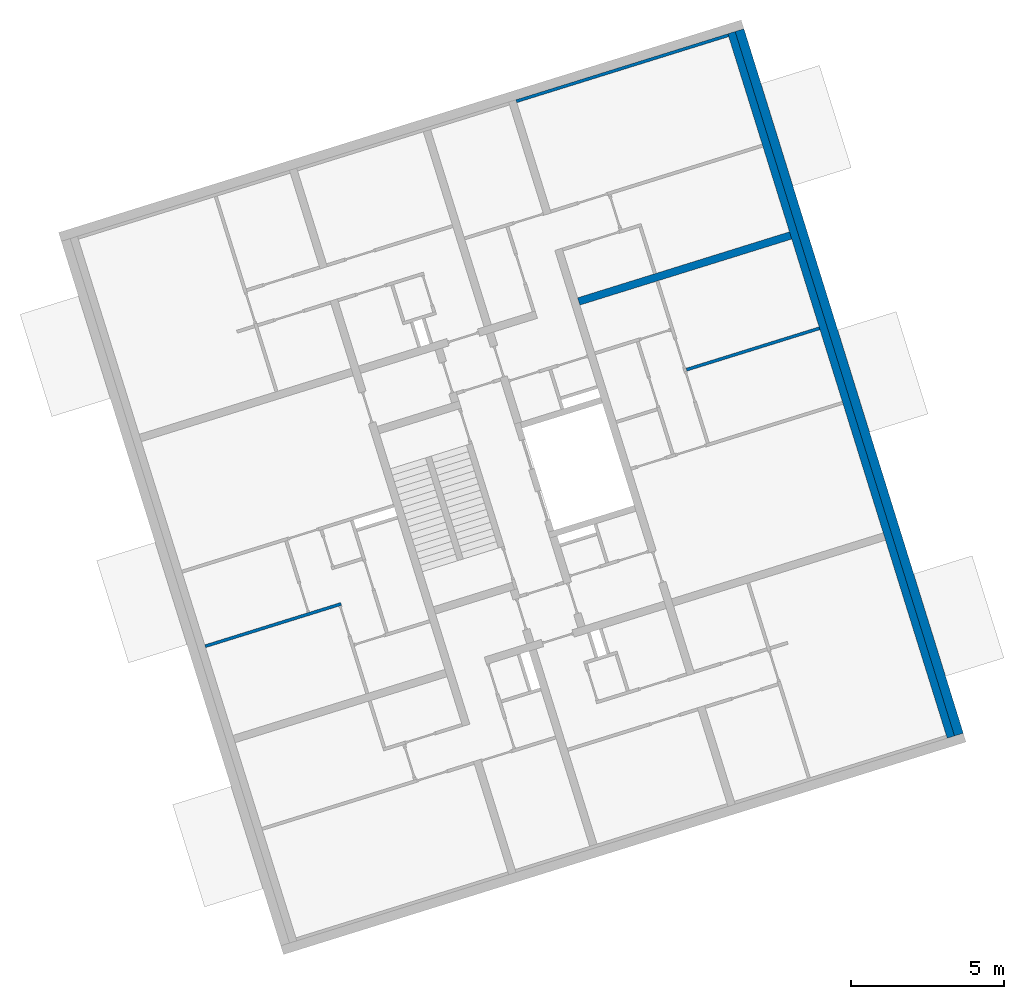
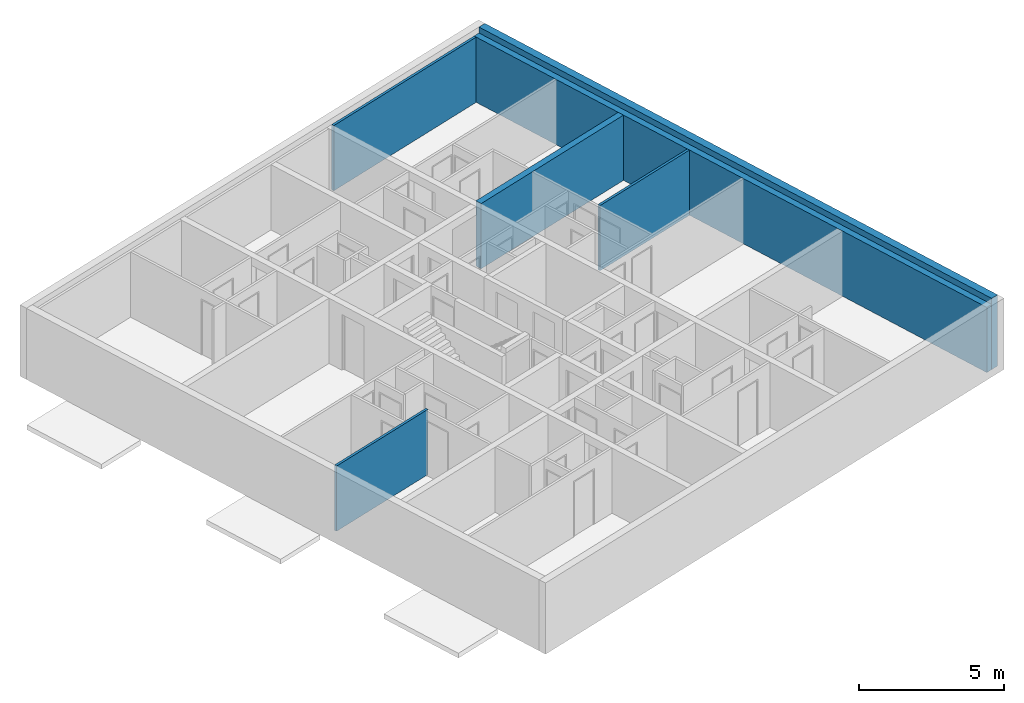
# One storey, part 7 of 9: 6 walls, 3 openings.
"""IFC4 building model written with IfcOpenShell, lengths in metres."""

import ifcopenshell
import ifcopenshell.guid

model = None  # the IFC model being written
_history = None  # IfcOwnerHistory: only IFC2X3 demands one
_inside = {}  # id of a spatial element -> (the spatial element, [elements in it])
_under = {}  # id of a project, library or spatial element -> (it, [spatial elements below it])
_declared = {}  # id of a project -> (the project, [libraries it declares])
_typed = {}  # id of a type object -> (the type object, [elements of that type])
_made_of = {}  # id of a material, layer set ... -> (it, [elements and type objects made of it])


def new_model(schema):
    """Start an empty IFC model of exactly this schema.

    Asked for "IFC4X3", IfcOpenShell would pick the latest addendum, in which some entities
    have other attributes; the version numbers below select the first issue.
    IFC2X3 requires an IfcOwnerHistory on every rooted entity: one is made here for all.
    """
    global model, _history
    if schema == "IFC4X3":
        model = ifcopenshell.file(schema_version=(4, 3, 0, 0))
    else:
        model = ifcopenshell.file(schema=schema)
    _inside.clear()
    _under.clear()
    _declared.clear()
    _typed.clear()
    _made_of.clear()
    _history = None
    if model.schema == "IFC2X3":
        org = make("IfcOrganization", Name="unknown")
        user = make(
            "IfcPersonAndOrganization",
            ThePerson=make("IfcPerson", FamilyName="unknown"),
            TheOrganization=org,
        )
        app = make(
            "IfcApplication",
            ApplicationDeveloper=org,
            Version="unknown",
            ApplicationFullName="unknown",
            ApplicationIdentifier="unknown",
        )
        _history = make(
            "IfcOwnerHistory",
            OwningUser=user,
            OwningApplication=app,
            ChangeAction="ADDED",
            CreationDate=0,
        )
    return model


def make(cls, **values):
    """One entity of the class cls with the attributes given. An attribute that is None is left unset."""
    return model.create_entity(
        cls, **{name: value for name, value in values.items() if value is not None}
    )


def entity(cls, *values):
    """Any entity or typed value of the class cls, its attributes in the order of the schema. None: left unset."""
    e = model.create_entity(cls)
    for i, value in enumerate(values):
        if value is not None:
            e[i] = value
    return e


def rooted(cls, **values):
    """An entity with a GlobalId (a new one), such as an element, a storey or a relation."""
    return make(cls, GlobalId=ifcopenshell.guid.new(), OwnerHistory=_history, **values)


def si_unit(unit_type, name, prefix=None):
    """IfcSIUnit, for example si_unit("LENGTHUNIT", "METRE", prefix="MILLI")."""
    return make("IfcSIUnit", UnitType=unit_type, Prefix=prefix, Name=name)


def converted_unit(unit_type, name, factor, base, dimensions=None, offset=None):
    """IfcConversionBasedUnit, such as the inch: factor (a typed value) times the base unit."""
    return make(
        "IfcConversionBasedUnit"
        if offset is None
        else "IfcConversionBasedUnitWithOffset",
        ConversionOffset=offset,
        Dimensions=None
        if dimensions is None
        else entity("IfcDimensionalExponents", *dimensions),
        UnitType=unit_type,
        Name=name,
        ConversionFactor=make(
            "IfcMeasureWithUnit", ValueComponent=factor, UnitComponent=base
        ),
    )


def assignment(units):
    """IfcUnitAssignment: the units of a project."""
    return None if units is None else make("IfcUnitAssignment", Units=units)


def point(xyz):
    """IfcCartesianPoint."""
    return None if xyz is None else make("IfcCartesianPoint", Coordinates=xyz)


def direction(xyz):
    """IfcDirection."""
    return None if xyz is None else make("IfcDirection", DirectionRatios=xyz)


def frame(location, z_axis=None, x_axis=None):
    """IfcAxis2Placement3D, a coordinate frame: its origin and axes. An axis left out is left unset."""
    return make(
        "IfcAxis2Placement3D",
        Location=point(location),
        Axis=direction(z_axis),
        RefDirection=direction(x_axis),
    )


def origin():
    """The frame at (0, 0, 0) with its axes left unset."""
    return frame((0.0, 0.0, 0.0))


def place(relative_to, where):
    """IfcLocalPlacement: puts the frame where relative to a parent placement (None: the world)."""
    return make(
        "IfcLocalPlacement", PlacementRelTo=relative_to, RelativePlacement=where
    )


def context(
    kind, dimensions, precision=None, world=None, true_north=None, identifier=None
):
    """IfcGeometricRepresentationContext, for example the 3D "Model" context."""
    return make(
        "IfcGeometricRepresentationContext",
        ContextIdentifier=identifier,
        ContextType=kind,
        CoordinateSpaceDimension=dimensions,
        Precision=precision,
        WorldCoordinateSystem=world,
        TrueNorth=true_north,
    )


def subcontext(parent, identifier, kind, view, scale=None):
    """IfcGeometricRepresentationSubContext, for example "Body" below "Model"."""
    return make(
        "IfcGeometricRepresentationSubContext",
        ContextIdentifier=identifier,
        ContextType=kind,
        ParentContext=parent,
        TargetScale=scale,
        TargetView=view,
    )


def project(units=None, contexts=None):
    """IfcProject with its units and contexts."""
    return rooted(
        "IfcProject",
        Name="project",
        RepresentationContexts=contexts,
        UnitsInContext=assignment(units),
    )


def spatial(cls, under=None, at=None, **own):
    """A site, building, storey or space (cls), placed at a placement, below another one or the project."""
    s = rooted(cls, ObjectPlacement=at, **own)
    if under is not None:
        _under.setdefault(under.id(), (under, []))[1].append(s)
    return s


def point_list(points):
    """IfcCartesianPointList2D or 3D."""
    cls = (
        "IfcCartesianPointList2D" if len(points[0]) == 2 else "IfcCartesianPointList3D"
    )
    return make(cls, CoordList=points)


def indexed_curve(points, segments=None, self_intersect=None):
    """IfcIndexedPolyCurve: lines and arcs through numbered points (the first is 1)."""
    return make(
        "IfcIndexedPolyCurve",
        Points=point_list(points),
        Segments=segments,
        SelfIntersect=self_intersect,
    )


def outline(outer, holes=None, kind="AREA"):
    """IfcArbitraryClosedProfileDef: a profile drawn as a closed curve; with holes, ...WithVoids."""
    if holes is None:
        return make("IfcArbitraryClosedProfileDef", ProfileType=kind, OuterCurve=outer)
    return make(
        "IfcArbitraryProfileDefWithVoids",
        ProfileType=kind,
        OuterCurve=outer,
        InnerCurves=holes,
    )


def extrude(swept, where, along, depth):
    """IfcExtrudedAreaSolid: the profile swept, set in the frame where, extruded along a direction by depth."""
    return make(
        "IfcExtrudedAreaSolid",
        SweptArea=swept,
        Position=where,
        ExtrudedDirection=direction(along),
        Depth=depth,
    )


def polygons(points, faces, closed=None, point_numbers=None):
    """IfcPolygonalFaceSet: a face is its outer loop, then its inner loops; points numbered from 1."""
    made = []
    for loops in faces:
        if len(loops) == 1:
            made.append(make("IfcIndexedPolygonalFace", CoordIndex=loops[0]))
        else:
            made.append(
                make(
                    "IfcIndexedPolygonalFaceWithVoids",
                    CoordIndex=loops[0],
                    InnerCoordIndices=loops[1:],
                )
            )
    return make(
        "IfcPolygonalFaceSet",
        Coordinates=point_list(points),
        Closed=closed,
        Faces=made,
        PnIndex=point_numbers,
    )


def shape(context_of_items, identifier, shape_type, items):
    """IfcShapeRepresentation: the items that make up one representation, for example the "Body"."""
    return make(
        "IfcShapeRepresentation",
        ContextOfItems=context_of_items,
        RepresentationIdentifier=identifier,
        RepresentationType=shape_type,
        Items=items,
    )


def material(Name=None, Category=None):
    """IfcMaterial."""
    return make("IfcMaterial", Name=Name, Category=Category)


def made_of(thing, what):
    """Note that an element or type object is made of a material, layer set ...; save() writes the relation."""
    if what is not None:
        _made_of.setdefault(what.id(), (what, []))[1].append(thing)
    return thing


def type_object(cls, material=None, **own):
    """A type object (cls), such as IfcWallType, which elements share."""
    return made_of(rooted(cls, **own), material)


def element(
    cls,
    number,
    at=None,
    inside=None,
    cuts=None,
    type_object=None,
    material=None,
    context=None,
    identifier="Body",
    shape_type=None,
    held_by="IfcProductDefinitionShape",
    body=None,
    shapes=None,
    **own,
):
    """One element of the class cls, such as IfcWall. Its Tag is "e" and its number.

    at: its placement. inside: the storey or other place that contains it. cuts: it is an
    opening in that element (IfcRelVoidsElement). A single representation is given by context,
    identifier, shape_type and body (its items); several are given by shapes. held_by: the class
    of the entity that holds the representations. save() writes the other relations.
    """
    e = rooted(cls, Tag="e%d" % number, ObjectPlacement=at, **own)
    if body is not None:
        shapes = [shape(context, identifier, shape_type, body)]
    if shapes is not None:
        e.Representation = make(held_by, Representations=shapes)
    if inside is not None:
        _inside.setdefault(inside.id(), (inside, []))[1].append(e)
    if cuts is not None:
        rooted(
            "IfcRelVoidsElement", RelatingBuildingElement=cuts, RelatedOpeningElement=e
        )
    if type_object is not None:
        _typed.setdefault(type_object.id(), (type_object, []))[1].append(e)
    return made_of(e, material)


def aggregate(whole, parts):
    """IfcRelAggregates: a whole, such as a stair, and the parts it consists of."""
    return rooted("IfcRelAggregates", RelatingObject=whole, RelatedObjects=parts)


def save(model, path):
    """Write the relations noted so far, then the file.

    IfcRelAggregates (storeys below a building ...), IfcRelContainedInSpatialStructure (elements
    in a storey), IfcRelDefinesByType, IfcRelAssociatesMaterial and IfcRelDeclares: one each for
    every whole, place, type object, material and project.
    """
    for whole, parts in _under.values():
        aggregate(whole, parts)
    for where, things in _inside.values():
        rooted(
            "IfcRelContainedInSpatialStructure",
            RelatedElements=things,
            RelatingStructure=where,
        )
    for kind, things in _typed.values():
        rooted("IfcRelDefinesByType", RelatedObjects=things, RelatingType=kind)
    for what, things in _made_of.values():
        rooted("IfcRelAssociatesMaterial", RelatedObjects=things, RelatingMaterial=what)
    for by, libraries in _declared.values():
        rooted("IfcRelDeclares", RelatingContext=by, RelatedDefinitions=libraries)
    model.write(path)


model = new_model("IFC4")

# Units and contexts
model_context = context("Model", 3, precision=1e-05, world=origin(), true_north=direction((6.12323399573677e-17, 1.0)))
body_context = subcontext(model_context, "Body", "Model", "MODEL_VIEW")
ifc_project = project(units=[si_unit("LENGTHUNIT", "METRE"), si_unit("AREAUNIT", "SQUARE_METRE"), converted_unit("PLANEANGLEUNIT", "DEGREE", entity("IfcPlaneAngleMeasure", 0.0174532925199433), si_unit("PLANEANGLEUNIT", "RADIAN"), dimensions=[0, 0, 0, 0, 0, 0, 0]), si_unit("VOLUMEUNIT", "CUBIC_METRE")], contexts=[model_context])

# Site, building, storey
site_placement = place(None, frame((13.1347999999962, 11.9886000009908, 0.0), z_axis=(0.0, 0.0, 1.0), x_axis=(0.954770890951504, 0.297342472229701, 0.0)))
site = spatial("IfcSite", under=ifc_project, at=site_placement, Name="Schiehaven", CompositionType="ELEMENT")
building_placement = place(site_placement, origin())
building = spatial("IfcBuilding", under=site, at=building_placement, Name="VORM huis", CompositionType="ELEMENT")
storey_placement = place(building_placement, frame((0.0, 0.0, 9.9)))
storey = spatial("IfcBuildingStorey", under=building, at=storey_placement, Name="03 derde verdieping", CompositionType="ELEMENT", Elevation=9.9)

# Walls
ifc_material_1 = material(Name="beton_gewapend_ihw", Category="Miscellaneous")
wall_type_1 = type_object("IfcWallType", Name="Basic Wall:28_WA_skelet_wand 250mm_gen", PredefinedType="STANDARD")
wall_1_placement = place(storey_placement, frame((80.0, 5.0, 0.0), z_axis=(0.0, 0.0, 1.0), x_axis=(0.0, 1.0, 0.0)))
element("IfcWall", 1, at=wall_1_placement, inside=storey, type_object=wall_type_1, material=ifc_material_1, Name="Constructieve wand", ObjectType="Wand", PredefinedType="NOTDEFINED", context=body_context, shape_type="SweptSolid", body=[
    extrude(outline(indexed_curve([(24.1, 0.125), (2.12737606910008e-16, 0.125000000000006), (-2.12737606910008e-16, -0.125000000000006), (24.1, -0.125000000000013), (24.1, 0.125)], self_intersect=False)), origin(), (0.0, 0.0, 1.0), 2.75),
])
ifc_material_2 = material(Name="ntb_ntb_ntb", Category="Miscellaneous")
wall_type_2 = type_object("IfcWallType", Name="Basic Wall:21_WA_gevel_binnenspouwwand 100mm_gen", PredefinedType="STANDARD")
wall_2_placement = place(storey_placement, frame((79.8750000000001, 29.0499999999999, 0.0), z_axis=(0.0, 0.0, 1.0), x_axis=(-1.0, 0.0, 0.0)))
element("IfcWall", 2, at=wall_2_placement, inside=storey, type_object=wall_type_2, material=ifc_material_2, Name="Binnenspouwblad", ObjectType="Wand", PredefinedType="NOTDEFINED", context=body_context, shape_type="SweptSolid", body=[
    extrude(outline(indexed_curve([(7.24999999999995, 0.0499999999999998), (-1.70916305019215e-17, 0.0500000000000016), (1.70916305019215e-17, -0.0500000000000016), (7.24999999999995, -0.0500000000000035), (7.24999999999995, 0.0499999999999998)], self_intersect=False)), origin(), (0.0, 0.0, 1.0), 2.75),
])
wall_type_3 = type_object("IfcWallType", Name="Basic Wall: 300mm_gen", PredefinedType="STANDARD")
wall_3_placement = place(storey_placement, frame((80.275, 5.0, 0.0), z_axis=(0.0, 0.0, 1.0), x_axis=(0.0, 1.0, 0.0)))
element("IfcWall", 3, at=wall_3_placement, inside=storey, type_object=wall_type_3, material=ifc_material_2, Name="Gevelwand", ObjectType="Wand", PredefinedType="NOTDEFINED", context=body_context, shape_type="SweptSolid", body=[
    extrude(outline(indexed_curve([(24.1, 0.150000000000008), (-3.80640300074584e-16, 0.150000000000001), (-7.02226829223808e-16, -0.150000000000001), (24.1, -0.149999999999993), (24.1, 0.150000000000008)], self_intersect=False)), origin(), (0.0, 0.0, 1.0), 3.0),
])
wall_type_4 = type_object("IfcWallType", Name="Basic Wall:22_WA_afbouw_binnenwand 250mm_gen", PredefinedType="STANDARD")
wall_4_placement = place(storey_placement, frame((72.6250000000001, 22.1999999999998, 0.0)))
element("IfcWall", 4, at=wall_4_placement, inside=storey, type_object=wall_type_4, material=ifc_material_2, Name="Binnenwand", ObjectType="Wand", PredefinedType="NOTDEFINED", context=body_context, shape_type="SweptSolid", body=[
    extrude(outline(indexed_curve([(7.24999999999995, 0.125000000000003), (4.81048401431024e-17, 0.125000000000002), (-4.81048401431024e-17, -0.125000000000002), (7.24999999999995, -0.125), (7.24999999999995, 0.125000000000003)], self_intersect=False)), origin(), (0.0, 0.0, 1.0), 2.75),
])

# Wall, openings
wall_type_5 = type_object("IfcWallType", Name="Basic Wall:22_WA_afbouw_binnenwand 100mm_gen", PredefinedType="STANDARD")
wall_5_placement = place(storey_placement, frame((62.275, 15.0749999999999, 0.0), z_axis=(0.0, 0.0, 1.0), x_axis=(-1.0, 0.0, 0.0)))
wall_5 = element("IfcWall", 5, at=wall_5_placement, inside=storey, type_object=wall_type_5, material=ifc_material_2, Name="Binnenwand", ObjectType="Wand", PredefinedType="NOTDEFINED", context=body_context, shape_type="Tessellation", body=[
    polygons([(-2.2517677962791e-15, -0.0499999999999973, 0.0), (4.65000000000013, -0.0500000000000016, 0.0), (4.65000000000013, -0.0500000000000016, 2.75), (1.15, -0.0500000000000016, 2.75), (1.04999999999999, -0.0500000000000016, 2.75), (-2.2517677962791e-15, -0.0499999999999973, 2.75), (-2.17960445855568e-15, 0.0499999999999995, 0.0), (-2.17960445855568e-15, 0.0499999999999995, 2.34999999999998), (-2.17960445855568e-15, 0.0499999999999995, 2.75), (0.100000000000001, 0.0499999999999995, 2.75), (4.65000000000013, 0.0499999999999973, 2.75), (4.65000000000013, 0.0499999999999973, 0.0)], [[[1, 2, 3, 4, 5, 6]], [[7, 8, 9, 10, 11, 12]], [[2, 1, 7, 12]], [[3, 2, 12, 11]], [[6, 5, 4, 3, 11, 10, 9]], [[1, 6, 9, 8, 7]]], closed=True),
])
opening_1_placement = place(wall_5_placement, origin())
element("IfcOpeningElement", 6, at=opening_1_placement, cuts=wall_5, Name="Binnendeur", PredefinedType="OPENING", context=body_context, shape_type="SweptSolid", body=[
    extrude(outline(indexed_curve([(-0.0499999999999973, -1.17499999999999), (0.050000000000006, -1.17499999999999), (0.050000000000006, 1.17499999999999), (-0.0499999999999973, 1.17499999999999), (-0.0499999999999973, -1.17499999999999)], self_intersect=False)), frame((0.0500000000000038, 0.0500000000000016, 1.17499999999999), z_axis=(0.0, 1.0, 0.0), x_axis=(-1.0, 0.0, 0.0)), (0.0, 0.0, 1.0), 1.05),
])
opening_2_placement = place(wall_5_placement, origin())
element("IfcOpeningElement", 7, at=opening_2_placement, cuts=wall_5, Name="Binnendeur", PredefinedType="OPENING", context=body_context, shape_type="SweptSolid", body=[
    extrude(outline(indexed_curve([(-0.050000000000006, -1.17499999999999), (0.0499999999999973, -1.17499999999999), (0.0499999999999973, 1.17499999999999), (-0.050000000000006, 1.17499999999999), (-0.050000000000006, -1.17499999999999)], self_intersect=False)), frame((1.09999999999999, -1.1, 1.17499999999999), z_axis=(0.0, 1.0, 0.0), x_axis=(-1.0, 0.0, 0.0)), (0.0, 0.0, 1.0), 1.05),
])

# Wall, opening
wall_6_placement = place(storey_placement, frame((75.3249999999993, 19.0249999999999, 0.0)))
wall_6 = element("IfcWall", 8, at=wall_6_placement, inside=storey, type_object=wall_type_5, material=ifc_material_2, Name="Binnenwand", ObjectType="Wand", PredefinedType="NOTDEFINED", context=body_context, shape_type="Tessellation", body=[
    polygons([(6.24269688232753e-15, -0.0500000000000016, 0.0), (4.55000000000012, -0.0500000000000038, 0.0), (4.55000000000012, -0.0500000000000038, 2.75), (6.24269688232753e-15, -0.0500000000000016, 2.75), (-2.42024015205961e-15, -0.0500000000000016, 2.34999999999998), (6.59517781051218e-15, 0.0499999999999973, 0.0), (-2.06775922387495e-15, 0.0499999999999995, 2.34999999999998), (6.59517781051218e-15, 0.0499999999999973, 2.75), (4.55000000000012, 0.0499999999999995, 2.75), (4.55000000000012, 0.0499999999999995, 0.0)], [[[1, 2, 3, 4, 5]], [[6, 7, 8, 9, 10]], [[2, 1, 6, 10]], [[3, 2, 10, 9]], [[4, 3, 9, 8]], [[1, 5, 4, 8, 7, 6]]], closed=True),
])
opening_3_placement = place(wall_6_placement, origin())
element("IfcOpeningElement", 9, at=opening_3_placement, cuts=wall_6, Name="Binnendeur", PredefinedType="OPENING", context=body_context, shape_type="SweptSolid", body=[
    extrude(outline(indexed_curve([(-0.050000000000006, -1.17499999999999), (0.0499999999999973, -1.17499999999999), (0.0499999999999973, 1.17499999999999), (-0.050000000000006, 1.17499999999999), (-0.050000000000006, -1.17499999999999)], self_intersect=False)), frame((-0.050000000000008, 0.0500000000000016, 1.17499999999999), z_axis=(0.0, 1.0, 0.0), x_axis=(-1.0, 0.0, 0.0)), (0.0, 0.0, 1.0), 1.05),
])

save(model, "model.ifc")
